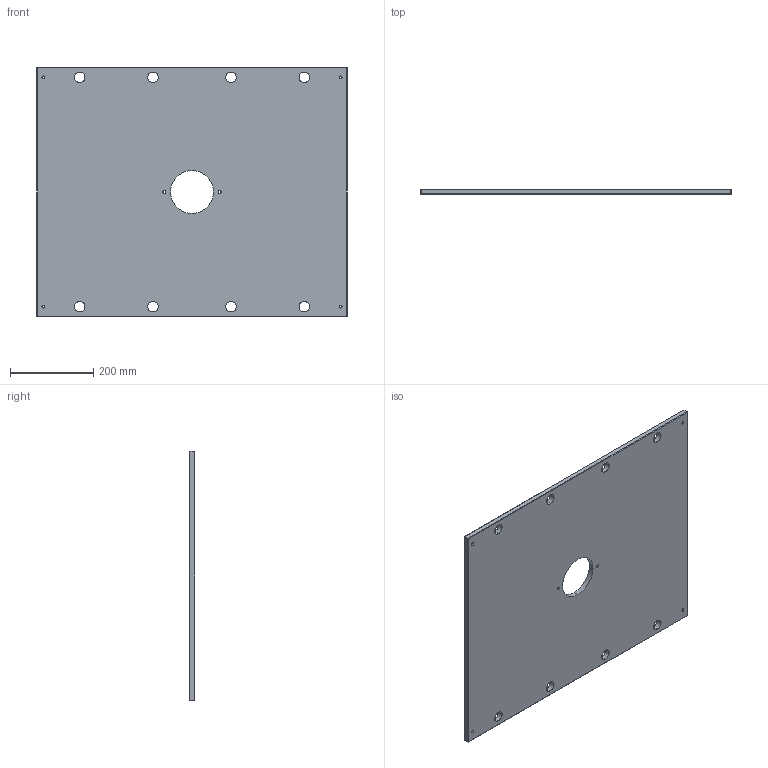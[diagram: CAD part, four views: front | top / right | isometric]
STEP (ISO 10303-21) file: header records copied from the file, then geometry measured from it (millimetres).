
FILE_DESCRIPTION (( 'STEP AP214' ), '1' );
FILE_NAME ('ME-0619-CH-2429.STEP', '2020-02-13T10:36:54', ( '' ), ( '' ), 'SwSTEP 2.0', 'SolidWorks 2018', '' );
FILE_SCHEMA (( 'AUTOMOTIVE_DESIGN' ));
Length unit declared in the file: inch
Products named in the file (1): ME-0619-CH-2429
Bounding box: 746.12 x 12.7 x 600.08 mm (x, y, z)
Volume: 5520103 mm3; surface area: 914043.5 mm2
Topology: 1 solids, 1 shells, 68 faces, 162 edges, 96 vertices
Faces by surface type: cylinder 30, plane 26, cone 12
Entity records: 2050 total; most frequent: DIRECTION 372, CARTESIAN_POINT 327, ORIENTED_EDGE 324, EDGE_CURVE 162, AXIS2_PLACEMENT_3D 141, EDGE_LOOP 98, VERTEX_POINT 96, LINE 90
